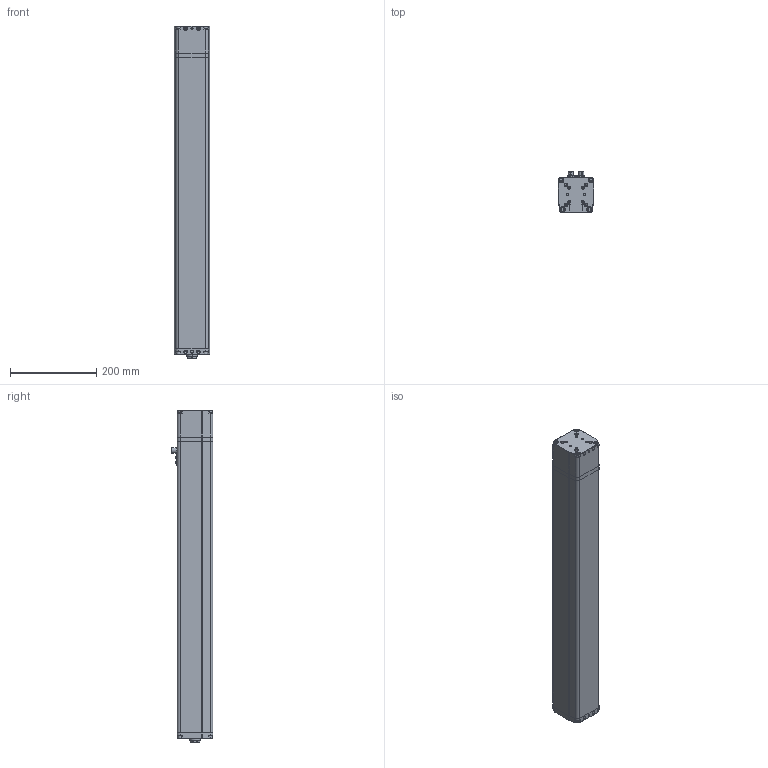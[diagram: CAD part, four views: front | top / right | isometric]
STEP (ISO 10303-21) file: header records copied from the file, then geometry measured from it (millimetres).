
FILE_DESCRIPTION (( 'STEP AP203' ), '1' );
FILE_NAME ('CTC-080-K__-____-_.step', '2023-09-29T10:01:32', ( '' ), ( '' ), 'SwSTEP 2.0', 'SolidWorks 2020', '' );
FILE_SCHEMA (( 'CONFIG_CONTROL_DESIGN' ));
Length unit declared in the file: millimetre
Products named in the file (4): CTC-080_Schubrohr_Hub 0600; CTC-080-K__-____-_; CTC-080_housing_Hub_0600; CTC-080_Aufsatz-I_M10
Assembly tree (3 placements, depth 2):
  CTC-080-K__-____-_
    CTC-080_housing_Hub_0600
    CTC-080_Schubrohr_Hub 0600
    CTC-080_Aufsatz-I_M10
Bounding box: 82 x 96.3 x 772 mm (x, y, z)
Volume: 4389107.7 mm3; surface area: 531055.4 mm2
Topology: 30 solids, 30 shells, 794 faces, 1773 edges, 1092 vertices
Faces by surface type: cylinder 305, plane 297, cone 116, torus 68, sphere 8
Entity records: 22301 total; most frequent: DIRECTION 4133, CARTESIAN_POINT 3791, ORIENTED_EDGE 3478, EDGE_CURVE 1739, AXIS2_PLACEMENT_3D 1630, VERTEX_POINT 1092, EDGE_LOOP 889, LINE 873
